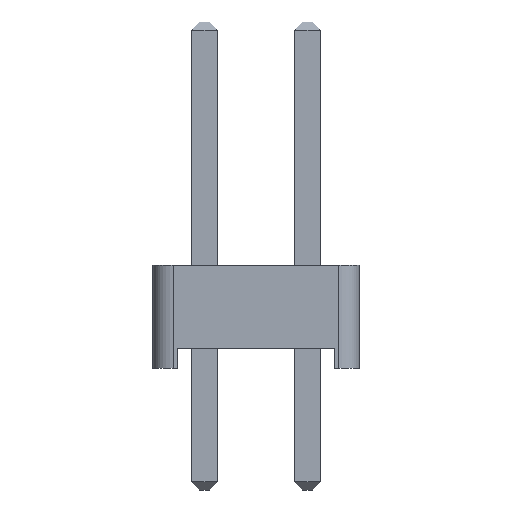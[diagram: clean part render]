
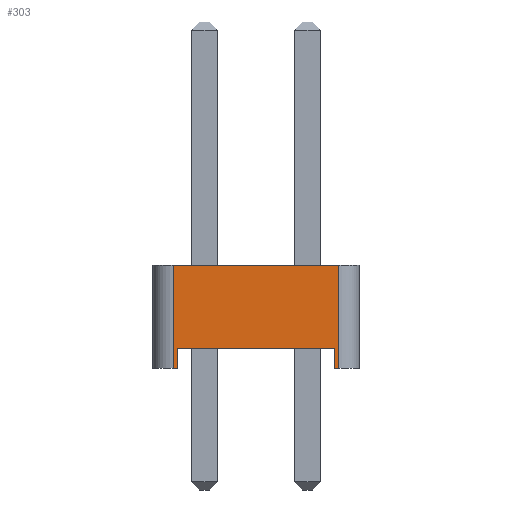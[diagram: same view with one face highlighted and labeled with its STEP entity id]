
A CAD part, left-side view. The second image highlights one B-rep face of the part: STEP entity #303.
In plain terms, the highlighted planar face has unit normal (-1, 0, 0).
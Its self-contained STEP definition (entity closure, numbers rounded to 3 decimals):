
#43 = VERTEX_POINT('',#44);
#44 = CARTESIAN_POINT('',(-1.27,2.04,0.));
#52 = PLANE('',#53);
#53 = AXIS2_PLACEMENT_3D('',#54,#55,#56);
#54 = CARTESIAN_POINT('',(0.,0.,0.));
#55 = DIRECTION('',(-0.,-0.,-1.));
#56 = DIRECTION('',(-1.,0.,0.));
#68 = CYLINDRICAL_SURFACE('',#69,0.5);
#69 = AXIS2_PLACEMENT_3D('',#70,#71,#72);
#70 = CARTESIAN_POINT('',(-0.77,2.04,0.));
#71 = DIRECTION('',(0.,0.,1.));
#72 = DIRECTION('',(0.,1.,0.));
#170 = VERTEX_POINT('',#171);
#171 = CARTESIAN_POINT('',(-1.27,1.94,0.));
#185 = PLANE('',#186);
#186 = AXIS2_PLACEMENT_3D('',#187,#188,#189);
#187 = CARTESIAN_POINT('',(1.27,1.94,0.));
#188 = DIRECTION('',(0.,-1.,0.));
#189 = DIRECTION('',(-1.,0.,0.));
#197 = EDGE_CURVE('',#170,#43,#198,.T.);
#198 = SURFACE_CURVE('',#199,(#203,#210),.PCURVE_S1.);
#199 = LINE('',#200,#201);
#200 = CARTESIAN_POINT('',(-1.27,-2.54,0.));
#201 = VECTOR('',#202,1.);
#202 = DIRECTION('',(0.,1.,0.));
#203 = PCURVE('',#52,#204);
#204 = DEFINITIONAL_REPRESENTATION('',(#205),#209);
#205 = LINE('',#206,#207);
#206 = CARTESIAN_POINT('',(1.27,-2.54));
#207 = VECTOR('',#208,1.);
#208 = DIRECTION('',(0.,1.));
#209 = ( GEOMETRIC_REPRESENTATION_CONTEXT(2) 
PARAMETRIC_REPRESENTATION_CONTEXT() REPRESENTATION_CONTEXT('2D SPACE',''
  ) );
#210 = PCURVE('',#211,#216);
#211 = PLANE('',#212);
#212 = AXIS2_PLACEMENT_3D('',#213,#214,#215);
#213 = CARTESIAN_POINT('',(-1.27,-2.54,0.));
#214 = DIRECTION('',(-1.,0.,0.));
#215 = DIRECTION('',(0.,1.,0.));
#216 = DEFINITIONAL_REPRESENTATION('',(#217),#221);
#217 = LINE('',#218,#219);
#218 = CARTESIAN_POINT('',(0.,0.));
#219 = VECTOR('',#220,1.);
#220 = DIRECTION('',(1.,0.));
#221 = ( GEOMETRIC_REPRESENTATION_CONTEXT(2) 
PARAMETRIC_REPRESENTATION_CONTEXT() REPRESENTATION_CONTEXT('2D SPACE',''
  ) );
#227 = EDGE_CURVE('',#43,#228,#230,.T.);
#228 = VERTEX_POINT('',#229);
#229 = CARTESIAN_POINT('',(-1.27,2.04,2.54));
#230 = SURFACE_CURVE('',#231,(#235,#242),.PCURVE_S1.);
#231 = LINE('',#232,#233);
#232 = CARTESIAN_POINT('',(-1.27,2.04,0.));
#233 = VECTOR('',#234,1.);
#234 = DIRECTION('',(0.,0.,1.));
#235 = PCURVE('',#68,#236);
#236 = DEFINITIONAL_REPRESENTATION('',(#237),#241);
#237 = LINE('',#238,#239);
#238 = CARTESIAN_POINT('',(1.571,0.));
#239 = VECTOR('',#240,1.);
#240 = DIRECTION('',(0.,1.));
#241 = ( GEOMETRIC_REPRESENTATION_CONTEXT(2) 
PARAMETRIC_REPRESENTATION_CONTEXT() REPRESENTATION_CONTEXT('2D SPACE',''
  ) );
#242 = PCURVE('',#211,#243);
#243 = DEFINITIONAL_REPRESENTATION('',(#244),#248);
#244 = LINE('',#245,#246);
#245 = CARTESIAN_POINT('',(4.58,0.));
#246 = VECTOR('',#247,1.);
#247 = DIRECTION('',(0.,-1.));
#248 = ( GEOMETRIC_REPRESENTATION_CONTEXT(2) 
PARAMETRIC_REPRESENTATION_CONTEXT() REPRESENTATION_CONTEXT('2D SPACE',''
  ) );
#267 = PLANE('',#268);
#268 = AXIS2_PLACEMENT_3D('',#269,#270,#271);
#269 = CARTESIAN_POINT('',(0.,0.,2.54));
#270 = DIRECTION('',(-0.,-0.,-1.));
#271 = DIRECTION('',(-1.,0.,0.));
#303 = ADVANCED_FACE('',(#304),#211,.T.);
#304 = FACE_BOUND('',#305,.T.);
#305 = EDGE_LOOP('',(#306,#336,#364,#385,#386,#387,#410,#438));
#306 = ORIENTED_EDGE('',*,*,#307,.F.);
#307 = EDGE_CURVE('',#308,#310,#312,.T.);
#308 = VERTEX_POINT('',#309);
#309 = CARTESIAN_POINT('',(-1.27,-2.04,0.));
#310 = VERTEX_POINT('',#311);
#311 = CARTESIAN_POINT('',(-1.27,-1.94,0.));
#312 = SURFACE_CURVE('',#313,(#317,#324),.PCURVE_S1.);
#313 = LINE('',#314,#315);
#314 = CARTESIAN_POINT('',(-1.27,-2.54,0.));
#315 = VECTOR('',#316,1.);
#316 = DIRECTION('',(0.,1.,0.));
#317 = PCURVE('',#211,#318);
#318 = DEFINITIONAL_REPRESENTATION('',(#319),#323);
#319 = LINE('',#320,#321);
#320 = CARTESIAN_POINT('',(0.,0.));
#321 = VECTOR('',#322,1.);
#322 = DIRECTION('',(1.,0.));
#323 = ( GEOMETRIC_REPRESENTATION_CONTEXT(2) 
PARAMETRIC_REPRESENTATION_CONTEXT() REPRESENTATION_CONTEXT('2D SPACE',''
  ) );
#324 = PCURVE('',#325,#330);
#325 = PLANE('',#326);
#326 = AXIS2_PLACEMENT_3D('',#327,#328,#329);
#327 = CARTESIAN_POINT('',(0.,0.,0.));
#328 = DIRECTION('',(-0.,-0.,-1.));
#329 = DIRECTION('',(-1.,0.,0.));
#330 = DEFINITIONAL_REPRESENTATION('',(#331),#335);
#331 = LINE('',#332,#333);
#332 = CARTESIAN_POINT('',(1.27,-2.54));
#333 = VECTOR('',#334,1.);
#334 = DIRECTION('',(0.,1.));
#335 = ( GEOMETRIC_REPRESENTATION_CONTEXT(2) 
PARAMETRIC_REPRESENTATION_CONTEXT() REPRESENTATION_CONTEXT('2D SPACE',''
  ) );
#336 = ORIENTED_EDGE('',*,*,#337,.T.);
#337 = EDGE_CURVE('',#308,#338,#340,.T.);
#338 = VERTEX_POINT('',#339);
#339 = CARTESIAN_POINT('',(-1.27,-2.04,2.54));
#340 = SURFACE_CURVE('',#341,(#345,#352),.PCURVE_S1.);
#341 = LINE('',#342,#343);
#342 = CARTESIAN_POINT('',(-1.27,-2.04,0.));
#343 = VECTOR('',#344,1.);
#344 = DIRECTION('',(0.,0.,1.));
#345 = PCURVE('',#211,#346);
#346 = DEFINITIONAL_REPRESENTATION('',(#347),#351);
#347 = LINE('',#348,#349);
#348 = CARTESIAN_POINT('',(0.5,0.));
#349 = VECTOR('',#350,1.);
#350 = DIRECTION('',(0.,-1.));
#351 = ( GEOMETRIC_REPRESENTATION_CONTEXT(2) 
PARAMETRIC_REPRESENTATION_CONTEXT() REPRESENTATION_CONTEXT('2D SPACE',''
  ) );
#352 = PCURVE('',#353,#358);
#353 = CYLINDRICAL_SURFACE('',#354,0.5);
#354 = AXIS2_PLACEMENT_3D('',#355,#356,#357);
#355 = CARTESIAN_POINT('',(-0.77,-2.04,0.));
#356 = DIRECTION('',(0.,0.,1.));
#357 = DIRECTION('',(0.,-1.,0.));
#358 = DEFINITIONAL_REPRESENTATION('',(#359),#363);
#359 = LINE('',#360,#361);
#360 = CARTESIAN_POINT('',(-1.571,0.));
#361 = VECTOR('',#362,1.);
#362 = DIRECTION('',(-0.,1.));
#363 = ( GEOMETRIC_REPRESENTATION_CONTEXT(2) 
PARAMETRIC_REPRESENTATION_CONTEXT() REPRESENTATION_CONTEXT('2D SPACE',''
  ) );
#364 = ORIENTED_EDGE('',*,*,#365,.T.);
#365 = EDGE_CURVE('',#338,#228,#366,.T.);
#366 = SURFACE_CURVE('',#367,(#371,#378),.PCURVE_S1.);
#367 = LINE('',#368,#369);
#368 = CARTESIAN_POINT('',(-1.27,-2.54,2.54));
#369 = VECTOR('',#370,1.);
#370 = DIRECTION('',(0.,1.,0.));
#371 = PCURVE('',#211,#372);
#372 = DEFINITIONAL_REPRESENTATION('',(#373),#377);
#373 = LINE('',#374,#375);
#374 = CARTESIAN_POINT('',(0.,-2.54));
#375 = VECTOR('',#376,1.);
#376 = DIRECTION('',(1.,0.));
#377 = ( GEOMETRIC_REPRESENTATION_CONTEXT(2) 
PARAMETRIC_REPRESENTATION_CONTEXT() REPRESENTATION_CONTEXT('2D SPACE',''
  ) );
#378 = PCURVE('',#267,#379);
#379 = DEFINITIONAL_REPRESENTATION('',(#380),#384);
#380 = LINE('',#381,#382);
#381 = CARTESIAN_POINT('',(1.27,-2.54));
#382 = VECTOR('',#383,1.);
#383 = DIRECTION('',(0.,1.));
#384 = ( GEOMETRIC_REPRESENTATION_CONTEXT(2) 
PARAMETRIC_REPRESENTATION_CONTEXT() REPRESENTATION_CONTEXT('2D SPACE',''
  ) );
#385 = ORIENTED_EDGE('',*,*,#227,.F.);
#386 = ORIENTED_EDGE('',*,*,#197,.F.);
#387 = ORIENTED_EDGE('',*,*,#388,.T.);
#388 = EDGE_CURVE('',#170,#389,#391,.T.);
#389 = VERTEX_POINT('',#390);
#390 = CARTESIAN_POINT('',(-1.27,1.94,0.5));
#391 = SURFACE_CURVE('',#392,(#396,#403),.PCURVE_S1.);
#392 = LINE('',#393,#394);
#393 = CARTESIAN_POINT('',(-1.27,1.94,0.));
#394 = VECTOR('',#395,1.);
#395 = DIRECTION('',(0.,0.,1.));
#396 = PCURVE('',#211,#397);
#397 = DEFINITIONAL_REPRESENTATION('',(#398),#402);
#398 = LINE('',#399,#400);
#399 = CARTESIAN_POINT('',(4.48,0.));
#400 = VECTOR('',#401,1.);
#401 = DIRECTION('',(0.,-1.));
#402 = ( GEOMETRIC_REPRESENTATION_CONTEXT(2) 
PARAMETRIC_REPRESENTATION_CONTEXT() REPRESENTATION_CONTEXT('2D SPACE',''
  ) );
#403 = PCURVE('',#185,#404);
#404 = DEFINITIONAL_REPRESENTATION('',(#405),#409);
#405 = LINE('',#406,#407);
#406 = CARTESIAN_POINT('',(2.54,0.));
#407 = VECTOR('',#408,1.);
#408 = DIRECTION('',(0.,-1.));
#409 = ( GEOMETRIC_REPRESENTATION_CONTEXT(2) 
PARAMETRIC_REPRESENTATION_CONTEXT() REPRESENTATION_CONTEXT('2D SPACE',''
  ) );
#410 = ORIENTED_EDGE('',*,*,#411,.T.);
#411 = EDGE_CURVE('',#389,#412,#414,.T.);
#412 = VERTEX_POINT('',#413);
#413 = CARTESIAN_POINT('',(-1.27,-1.94,0.5));
#414 = SURFACE_CURVE('',#415,(#419,#426),.PCURVE_S1.);
#415 = LINE('',#416,#417);
#416 = CARTESIAN_POINT('',(-1.27,1.94,0.5));
#417 = VECTOR('',#418,1.);
#418 = DIRECTION('',(0.,-1.,0.));
#419 = PCURVE('',#211,#420);
#420 = DEFINITIONAL_REPRESENTATION('',(#421),#425);
#421 = LINE('',#422,#423);
#422 = CARTESIAN_POINT('',(4.48,-0.5));
#423 = VECTOR('',#424,1.);
#424 = DIRECTION('',(-1.,0.));
#425 = ( GEOMETRIC_REPRESENTATION_CONTEXT(2) 
PARAMETRIC_REPRESENTATION_CONTEXT() REPRESENTATION_CONTEXT('2D SPACE',''
  ) );
#426 = PCURVE('',#427,#432);
#427 = PLANE('',#428);
#428 = AXIS2_PLACEMENT_3D('',#429,#430,#431);
#429 = CARTESIAN_POINT('',(0.,0.,0.5));
#430 = DIRECTION('',(0.,0.,1.));
#431 = DIRECTION('',(1.,0.,0.));
#432 = DEFINITIONAL_REPRESENTATION('',(#433),#437);
#433 = LINE('',#434,#435);
#434 = CARTESIAN_POINT('',(-1.27,1.94));
#435 = VECTOR('',#436,1.);
#436 = DIRECTION('',(0.,-1.));
#437 = ( GEOMETRIC_REPRESENTATION_CONTEXT(2) 
PARAMETRIC_REPRESENTATION_CONTEXT() REPRESENTATION_CONTEXT('2D SPACE',''
  ) );
#438 = ORIENTED_EDGE('',*,*,#439,.F.);
#439 = EDGE_CURVE('',#310,#412,#440,.T.);
#440 = SURFACE_CURVE('',#441,(#445,#452),.PCURVE_S1.);
#441 = LINE('',#442,#443);
#442 = CARTESIAN_POINT('',(-1.27,-1.94,0.));
#443 = VECTOR('',#444,1.);
#444 = DIRECTION('',(0.,0.,1.));
#445 = PCURVE('',#211,#446);
#446 = DEFINITIONAL_REPRESENTATION('',(#447),#451);
#447 = LINE('',#448,#449);
#448 = CARTESIAN_POINT('',(0.6,0.));
#449 = VECTOR('',#450,1.);
#450 = DIRECTION('',(0.,-1.));
#451 = ( GEOMETRIC_REPRESENTATION_CONTEXT(2) 
PARAMETRIC_REPRESENTATION_CONTEXT() REPRESENTATION_CONTEXT('2D SPACE',''
  ) );
#452 = PCURVE('',#453,#458);
#453 = PLANE('',#454);
#454 = AXIS2_PLACEMENT_3D('',#455,#456,#457);
#455 = CARTESIAN_POINT('',(-1.27,-1.94,0.));
#456 = DIRECTION('',(0.,1.,0.));
#457 = DIRECTION('',(1.,0.,0.));
#458 = DEFINITIONAL_REPRESENTATION('',(#459),#463);
#459 = LINE('',#460,#461);
#460 = CARTESIAN_POINT('',(0.,0.));
#461 = VECTOR('',#462,1.);
#462 = DIRECTION('',(0.,-1.));
#463 = ( GEOMETRIC_REPRESENTATION_CONTEXT(2) 
PARAMETRIC_REPRESENTATION_CONTEXT() REPRESENTATION_CONTEXT('2D SPACE',''
  ) );
